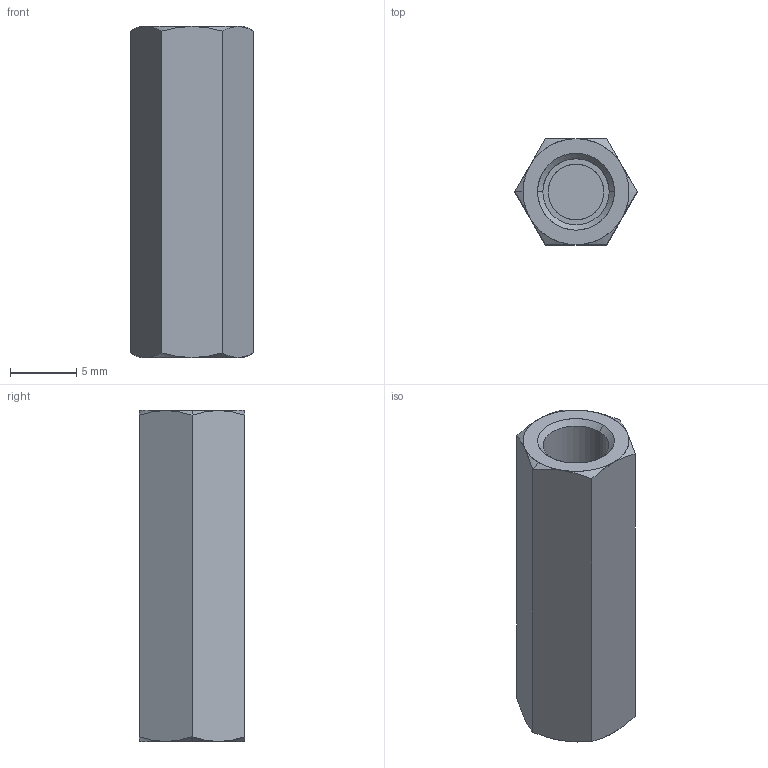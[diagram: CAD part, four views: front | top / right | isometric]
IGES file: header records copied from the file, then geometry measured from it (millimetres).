
Start section: SolidWorks IGES file using analytic representation for surfaces
Global section: file name: C:\Users\ianosborn\Desktop\N0503.NP_v2\N0503.NP_v2_20250227_IGES\N0503.050-025-NP.igs; native system: SolidWorks 2019; preprocessor: SolidWorks 2019; author: IanOsborn; date: 250227.144443; units: millimetre
Bounding box: 9.24 x 8 x 25 mm (x, y, z)
Surface area: 1139.5 mm2 (no closed solid volume)
Topology: 0 solids, 0 shells, 39 faces, 478 edges, 476 vertices
Faces by surface type: revolution 28, bspline 11
